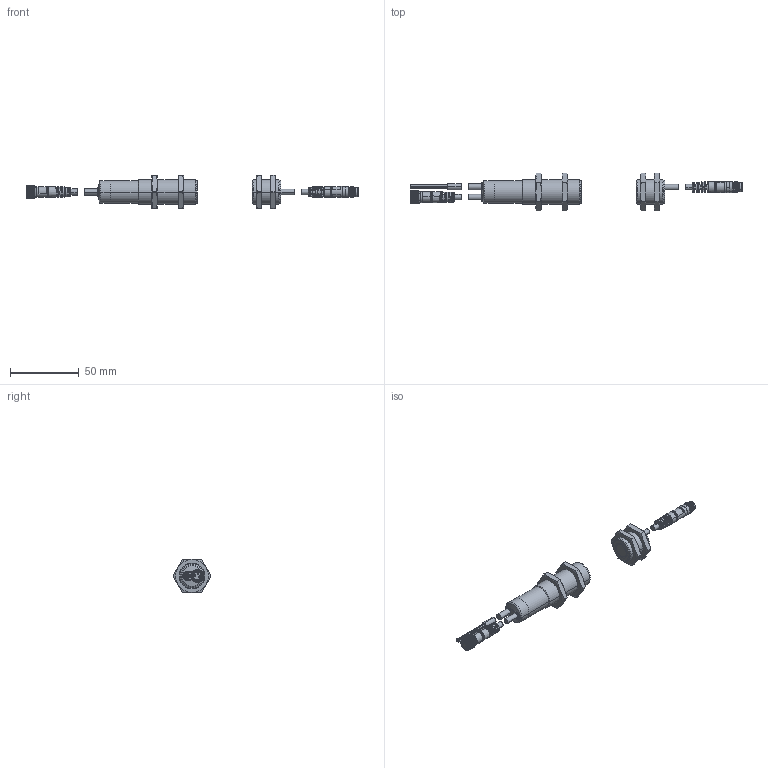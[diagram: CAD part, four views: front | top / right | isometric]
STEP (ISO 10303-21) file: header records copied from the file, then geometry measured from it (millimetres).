
FILE_DESCRIPTION (( 'STEP AP214' ), '1' );
FILE_NAME ('dbk+4.STEP', '2025-11-14T08:35:57', ( '' ), ( '' ), 'SwSTEP 2.0', 'SolidWorks 2024', '' );
FILE_SCHEMA (( 'AUTOMOTIVE_DESIGN' ));
Length unit declared in the file: millimetre
Products named in the file (7): 3pol. Kabelbuchse; M18x1 Mutter; dbk+4-Sender_M18_KX; dbk+4; 3pol. Kabelstecker; Sensorleitung
Assembly tree (9 placements, depth 2):
  dbk+4
    dbk+4
    M18x1 Mutter  x4
    3pol. Kabelbuchse
    Sensorleitung
    dbk+4-Sender_M18_KX
    3pol. Kabelstecker
Bounding box: 241.3 x 27.6 x 24 mm (x, y, z)
Volume: 29765.2 mm3; surface area: 14734.8 mm2
Topology: 9 solids, 21 shells, 3143 faces, 6865 edges, 3778 vertices
Faces by surface type: bspline 1798, cylinder 734, plane 326, cone 204, torus 51, sphere 30
Entity records: 134188 total; most frequent: CARTESIAN_POINT 57221, ORIENTED_EDGE 13196, EDGE_CURVE 6598, B_SPLINE_CURVE_WITH_KNOTS 5315, DIRECTION 4364, VERTEX_POINT 3634, EDGE_LOOP 3090, FACE_OUTER_BOUND 3038
